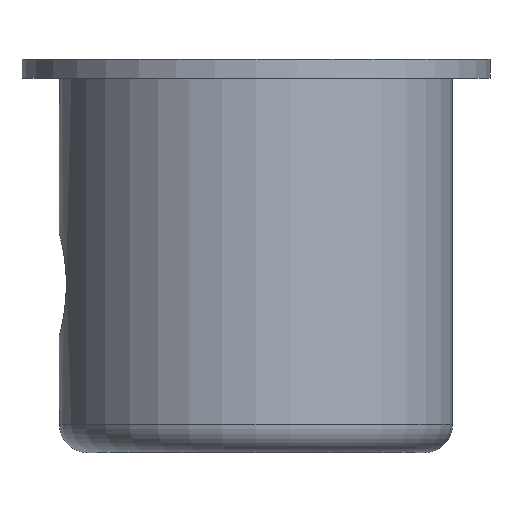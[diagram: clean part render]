
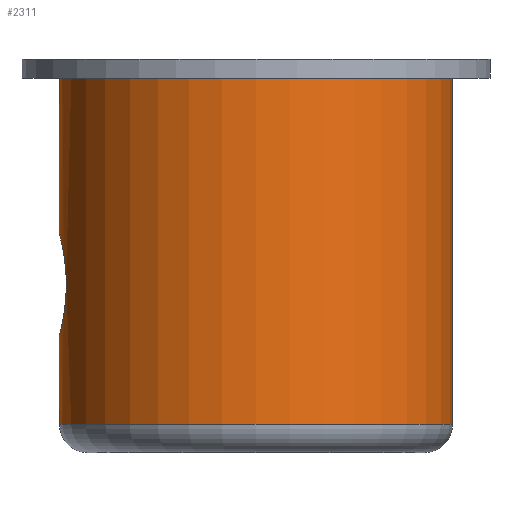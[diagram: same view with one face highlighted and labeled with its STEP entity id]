
A CAD part, front view. The second image highlights one B-rep face of the part: STEP entity #2311.
In plain terms, the highlighted cylindrical face has radius 21 mm (diameter 42 mm), a partial arc.
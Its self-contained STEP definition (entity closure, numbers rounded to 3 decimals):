
#7 = CARTESIAN_POINT ( 'NONE',  ( -21., 0., -40. ) ) ;
#19 = VECTOR ( 'NONE', #1008, 1000. ) ;
#30 = VERTEX_POINT ( 'NONE', #2341 ) ;
#40 = CARTESIAN_POINT ( 'NONE',  ( -20.398, -4.991, -19.8 ) ) ;
#55 = CARTESIAN_POINT ( 'NONE',  ( -20.861, -2.434, -26.886 ) ) ;
#60 = ORIENTED_EDGE ( 'NONE', *, *, #1516, .T. ) ;
#70 = CARTESIAN_POINT ( 'NONE',  ( -20.592, -4.122, -25.597 ) ) ;
#85 = CARTESIAN_POINT ( 'NONE',  ( -20.522, -4.454, -25.184 ) ) ;
#96 = CARTESIAN_POINT ( 'NONE',  ( -20.734, -3.345, -26.326 ) ) ;
#127 = B_SPLINE_CURVE_WITH_KNOTS ( 'NONE', 3,
 ( #279, #1451, #650, #631, #1637, #1667, #1844, #2064, #467, #1088, #2228, #439, #1434, #834, #2256, #251, #2448, #2212, #40, #864, #879, #680, #1464, #1223, #2419, #1058, #453, #2243, #481, #292, #1623, #1816, #1268, #2004, #1478, #85, #2460, #70, #2269, #1872, #96, #1043, #55, #848, #1654, #1254, #2434, #1679, #2034, #1859, #236, #665 ),
 .UNSPECIFIED., .F., .F.,
 ( 4, 2, 2, 2, 2, 2, 2, 2, 2, 2, 2, 2, 2, 2, 2, 2, 2, 2, 2, 2, 2, 2, 2, 2, 2, 4 ),
 ( 0., 0.062, 0.078, 0.094, 0.109, 0.125, 0.141, 0.156, 0.172, 0.187, 0.219, 0.25, 0.266, 0.281, 0.297, 0.312, 0.328, 0.344, 0.359, 0.375, 0.406, 0.437, 0.453, 0.469, 0.484, 0.5 ),
 .UNSPECIFIED. ) ;
#185 = DIRECTION ( 'NONE',  ( 1., 0., 0. ) ) ;
#202 = CARTESIAN_POINT ( 'NONE',  ( -21., 0., -27.435 ) ) ;
#236 = CARTESIAN_POINT ( 'NONE',  ( -21., -0.18, -27.435 ) ) ;
#251 = CARTESIAN_POINT ( 'NONE',  ( -20.478, -4.653, -19.178 ) ) ;
#279 = CARTESIAN_POINT ( 'NONE',  ( -21., 0., -16.635 ) ) ;
#292 = CARTESIAN_POINT ( 'NONE',  ( -20.349, -5.19, -23.775 ) ) ;
#359 = CARTESIAN_POINT ( 'NONE',  ( 0., 0., -37. ) ) ;
#381 = DIRECTION ( 'NONE',  ( -1., 0., 0. ) ) ;
#388 = ORIENTED_EDGE ( 'NONE', *, *, #1057, .T. ) ;
#439 = CARTESIAN_POINT ( 'NONE',  ( -20.616, -4.001, -18.342 ) ) ;
#453 = CARTESIAN_POINT ( 'NONE',  ( -20.292, -5.408, -22.918 ) ) ;
#467 = CARTESIAN_POINT ( 'NONE',  ( -20.733, -3.34, -17.751 ) ) ;
#481 = CARTESIAN_POINT ( 'NONE',  ( -20.322, -5.294, -23.437 ) ) ;
#513 = AXIS2_PLACEMENT_3D ( 'NONE', #687, #1486, #2265 ) ;
#531 = DIRECTION ( 'NONE',  ( 0., 0., 1. ) ) ;
#586 = CARTESIAN_POINT ( 'NONE',  ( -21., 0., -16.635 ) ) ;
#597 = EDGE_CURVE ( 'NONE', #30, #1456, #1762, .T. ) ;
#609 = VERTEX_POINT ( 'NONE', #586 ) ;
#631 = CARTESIAN_POINT ( 'NONE',  ( -20.878, -2.27, -17.117 ) ) ;
#650 = CARTESIAN_POINT ( 'NONE',  ( -20.962, -1.437, -16.775 ) ) ;
#665 = CARTESIAN_POINT ( 'NONE',  ( -21., 0., -27.435 ) ) ;
#680 = CARTESIAN_POINT ( 'NONE',  ( -20.282, -5.443, -21.327 ) ) ;
#687 = CARTESIAN_POINT ( 'NONE',  ( 0., 0., 0. ) ) ;
#760 = ORIENTED_EDGE ( 'NONE', *, *, #943, .T. ) ;
#810 = CIRCLE ( 'NONE', #513, 21. ) ;
#834 = CARTESIAN_POINT ( 'NONE',  ( -20.546, -4.346, -18.742 ) ) ;
#841 = CARTESIAN_POINT ( 'NONE',  ( 21., 0., -40. ) ) ;
#848 = CARTESIAN_POINT ( 'NONE',  ( -20.911, -1.936, -27.09 ) ) ;
#864 = CARTESIAN_POINT ( 'NONE',  ( -20.348, -5.196, -20.287 ) ) ;
#879 = CARTESIAN_POINT ( 'NONE',  ( -20.32, -5.302, -20.629 ) ) ;
#943 = EDGE_CURVE ( 'NONE', #1214, #979, #810, .T. ) ;
#979 = VERTEX_POINT ( 'NONE', #1239 ) ;
#1008 = DIRECTION ( 'NONE',  ( 0., 0., 1. ) ) ;
#1043 = CARTESIAN_POINT ( 'NONE',  ( -20.821, -2.753, -26.717 ) ) ;
#1057 = EDGE_CURVE ( 'NONE', #609, #1456, #127, .T. ) ;
#1058 = CARTESIAN_POINT ( 'NONE',  ( -20.285, -5.434, -22.743 ) ) ;
#1088 = CARTESIAN_POINT ( 'NONE',  ( -20.687, -3.618, -17.976 ) ) ;
#1126 = ORIENTED_EDGE ( 'NONE', *, *, #597, .F. ) ;
#1155 = CARTESIAN_POINT ( 'NONE',  ( 0., 0., -40. ) ) ;
#1168 = EDGE_CURVE ( 'NONE', #609, #979, #2456, .T. ) ;
#1187 = VECTOR ( 'NONE', #1890, 1000. ) ;
#1190 = CYLINDRICAL_SURFACE ( 'NONE', #2007, 21. ) ;
#1214 = VERTEX_POINT ( 'NONE', #1291 ) ;
#1223 = CARTESIAN_POINT ( 'NONE',  ( -20.273, -5.479, -22.209 ) ) ;
#1239 = CARTESIAN_POINT ( 'NONE',  ( -21., 0., 0. ) ) ;
#1246 = LINE ( 'NONE', #841, #19 ) ;
#1254 = CARTESIAN_POINT ( 'NONE',  ( -20.952, -1.427, -27.252 ) ) ;
#1268 = CARTESIAN_POINT ( 'NONE',  ( -20.417, -4.914, -24.429 ) ) ;
#1291 = CARTESIAN_POINT ( 'NONE',  ( 21., 0., 0. ) ) ;
#1434 = CARTESIAN_POINT ( 'NONE',  ( -20.592, -4.12, -18.471 ) ) ;
#1451 = CARTESIAN_POINT ( 'NONE',  ( -21., -0.723, -16.635 ) ) ;
#1456 = VERTEX_POINT ( 'NONE', #202 ) ;
#1464 = CARTESIAN_POINT ( 'NONE',  ( -20.273, -5.478, -21.678 ) ) ;
#1478 = CARTESIAN_POINT ( 'NONE',  ( -20.478, -4.653, -24.891 ) ) ;
#1486 = DIRECTION ( 'NONE',  ( 0., 0., -1. ) ) ;
#1516 = EDGE_CURVE ( 'NONE', #30, #2039, #2005, .T. ) ;
#1543 = DIRECTION ( 'NONE',  ( 0., 0., 1. ) ) ;
#1623 = CARTESIAN_POINT ( 'NONE',  ( -20.364, -5.129, -23.941 ) ) ;
#1637 = CARTESIAN_POINT ( 'NONE',  ( -20.86, -2.43, -17.192 ) ) ;
#1654 = CARTESIAN_POINT ( 'NONE',  ( -20.926, -1.769, -27.149 ) ) ;
#1667 = CARTESIAN_POINT ( 'NONE',  ( -20.82, -2.745, -17.358 ) ) ;
#1671 = ORIENTED_EDGE ( 'NONE', *, *, #1776, .T. ) ;
#1679 = CARTESIAN_POINT ( 'NONE',  ( -20.981, -0.901, -27.365 ) ) ;
#1684 = CARTESIAN_POINT ( 'NONE',  ( 21., 0., -37. ) ) ;
#1762 = LINE ( 'NONE', #7, #1961 ) ;
#1776 = EDGE_CURVE ( 'NONE', #2039, #1214, #1246, .T. ) ;
#1816 = CARTESIAN_POINT ( 'NONE',  ( -20.398, -4.991, -24.268 ) ) ;
#1844 = CARTESIAN_POINT ( 'NONE',  ( -20.8, -2.898, -17.449 ) ) ;
#1859 = CARTESIAN_POINT ( 'NONE',  ( -20.998, -0.36, -27.426 ) ) ;
#1872 = CARTESIAN_POINT ( 'NONE',  ( -20.687, -3.62, -26.104 ) ) ;
#1890 = DIRECTION ( 'NONE',  ( 0., 0., 1. ) ) ;
#1961 = VECTOR ( 'NONE', #2148, 1000. ) ;
#2004 = CARTESIAN_POINT ( 'NONE',  ( -20.457, -4.744, -24.742 ) ) ;
#2005 = CIRCLE ( 'NONE', #2131, 21. ) ;
#2007 = AXIS2_PLACEMENT_3D ( 'NONE', #1155, #531, #185 ) ;
#2034 = CARTESIAN_POINT ( 'NONE',  ( -20.988, -0.72, -27.391 ) ) ;
#2039 = VERTEX_POINT ( 'NONE', #1684 ) ;
#2064 = CARTESIAN_POINT ( 'NONE',  ( -20.756, -3.195, -17.645 ) ) ;
#2092 = ORIENTED_EDGE ( 'NONE', *, *, #1168, .F. ) ;
#2131 = AXIS2_PLACEMENT_3D ( 'NONE', #359, #1543, #381 ) ;
#2148 = DIRECTION ( 'NONE',  ( 0., 0., 1. ) ) ;
#2212 = CARTESIAN_POINT ( 'NONE',  ( -20.417, -4.915, -19.642 ) ) ;
#2218 = EDGE_LOOP ( 'NONE', ( #1126, #60, #1671, #760, #2092, #388 ) ) ;
#2228 = CARTESIAN_POINT ( 'NONE',  ( -20.663, -3.749, -18.093 ) ) ;
#2243 = CARTESIAN_POINT ( 'NONE',  ( -20.31, -5.337, -23.267 ) ) ;
#2256 = CARTESIAN_POINT ( 'NONE',  ( -20.523, -4.454, -18.885 ) ) ;
#2265 = DIRECTION ( 'NONE',  ( -1., 0., 0. ) ) ;
#2266 = CARTESIAN_POINT ( 'NONE',  ( -21., 0., -40. ) ) ;
#2269 = CARTESIAN_POINT ( 'NONE',  ( -20.616, -4.001, -25.728 ) ) ;
#2311 = ADVANCED_FACE ( 'NONE', ( #2319 ), #1190, .T. ) ;
#2319 = FACE_OUTER_BOUND ( 'NONE', #2218, .T. ) ;
#2341 = CARTESIAN_POINT ( 'NONE',  ( -21., 0., -37. ) ) ;
#2419 = CARTESIAN_POINT ( 'NONE',  ( -20.275, -5.47, -22.388 ) ) ;
#2434 = CARTESIAN_POINT ( 'NONE',  ( -20.963, -1.253, -27.295 ) ) ;
#2448 = CARTESIAN_POINT ( 'NONE',  ( -20.457, -4.745, -19.33 ) ) ;
#2456 = LINE ( 'NONE', #2266, #1187 ) ;
#2460 = CARTESIAN_POINT ( 'NONE',  ( -20.545, -4.348, -25.325 ) ) ;
